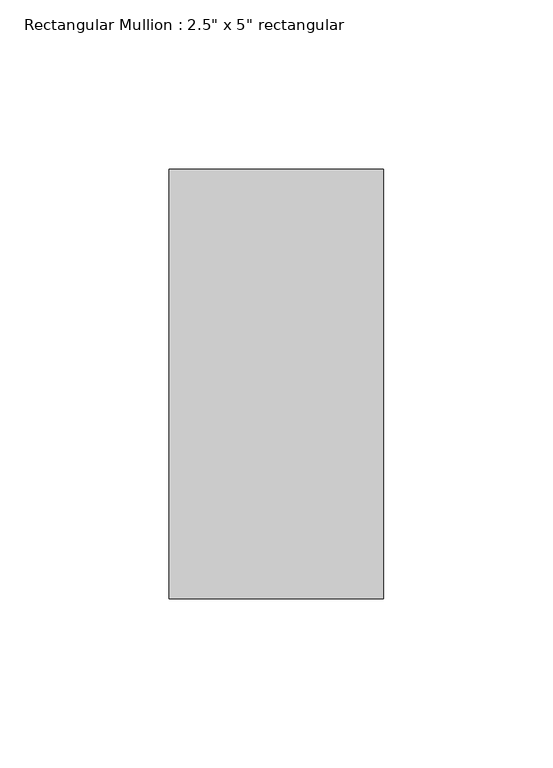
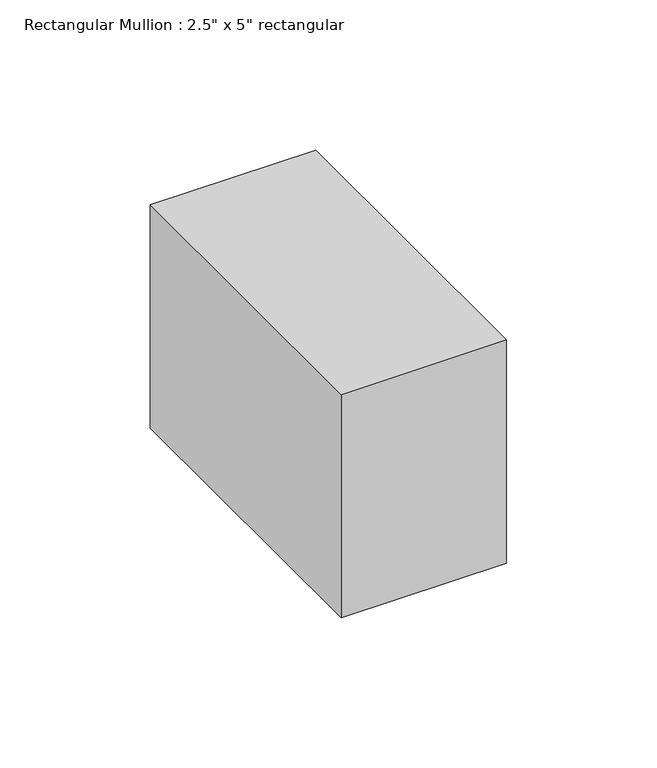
"""IFC4 building model written with IfcOpenShell, lengths in millimetres: member geometry."""

from ifc_helpers import new_model, si_unit, frame, origin, place, context, project, spatial, polyline, outline, extrude, source, transform, mapped, element, save


def member_f3edd3fb(model_context):
    return source(origin(), model_context, "Body", "SweptSolid", [
        extrude(outline(polyline([(0.0, 63.5), (0.0, -63.5), (-63.5, -63.5), (-63.5, 63.5), (0.0, 63.5)])), frame((0.0, 0.0, -90.6589002), z_axis=(0.0, 0.0, 1.0), x_axis=(1.0, 0.0, 0.0)), (0.0, 0.0, 1.0), 90.6589002),
    ])


if __name__ == "__main__":
    model = new_model("IFC4")
    model_context = context("Model", 3, world=origin())
    ifc_project = project(units=[si_unit("LENGTHUNIT", "METRE", prefix="MILLI")], contexts=[model_context])
    site = spatial("IfcSite", under=ifc_project)
    building = spatial("IfcBuilding", under=site)
    placement = place(None, origin())
    member_shape = member_f3edd3fb(model_context)
    element("IfcMember", 1, ObjectType="Rectangular Mullion : 2.5\" x 5\" rectangular", at=placement, inside=building, context=model_context, shape_type="MappedRepresentation", body=[
        mapped(member_shape, transform((0.0, 0.0, 0.0), x_axis=(1.0, 0.0, 0.0), y_axis=(0.0, 1.0, 0.0), z_axis=(0.0, 0.0, 1.0))),
    ])
    save(model, "model.ifc")
